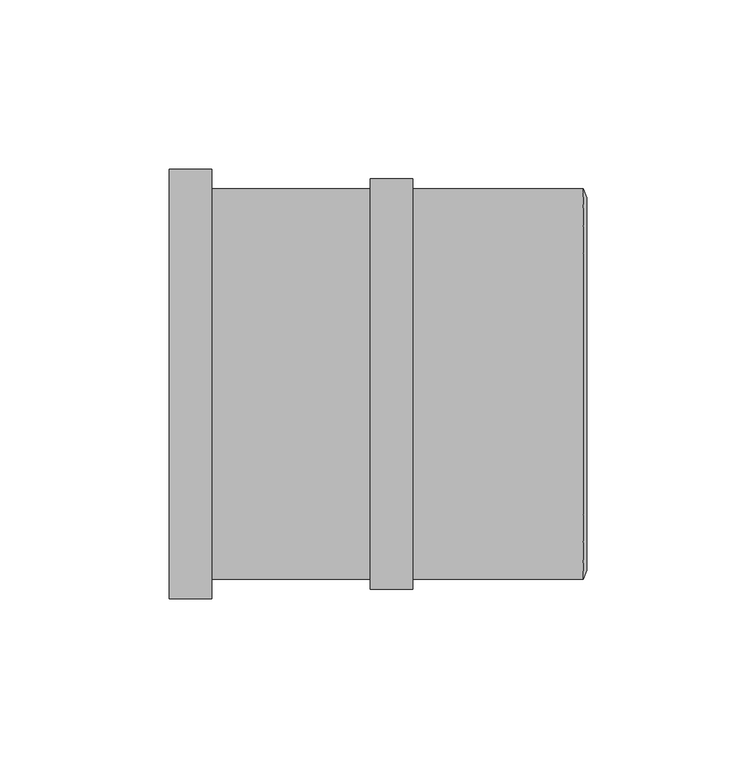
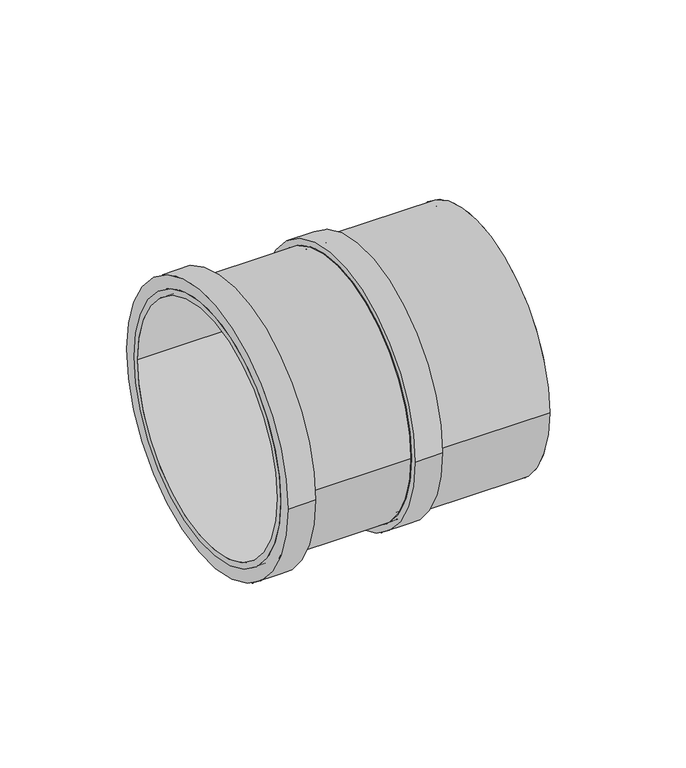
"""IFC4 building model written with IfcOpenShell, lengths in millimetres: pipe fitting geometry, Superdrain HTAM-Single socket : Superdrain HTAM-Single socket."""

from ifc_helpers import new_model, si_unit, point, frame, origin, origin_2d, place, context, project, spatial, polyline, circle_curve, trimmed, segment, composite_curve, outline, extrude, source, transform, mapped, element, save
from ifc_brep_helpers import plane_surface, revolved_surface, advanced_brep


def pipe_fitting_4dd23337(model_context):
    return source(origin(), model_context, "Body", "SolidModel", [
        extrude(outline(composite_curve([segment(trimmed(circle_curve(origin_2d(), 57.75), [point((-57.75, 0.0))], [point((57.75, 0.0))], False, "CARTESIAN"), True, "CONTINUOUS"), segment(trimmed(circle_curve(origin_2d(), 57.75), [point((57.75, 0.0))], [point((-57.75, 0.0))], False, "CARTESIAN"), True, "CONTINUOUS")], self_intersect=False), holes=[composite_curve([segment(trimmed(circle_curve(origin_2d(), 55.0), [point((-55.0, 0.0))], [point((55.0, 0.0))], True, "CARTESIAN"), True, "CONTINUOUS"), segment(trimmed(circle_curve(origin_2d(), 55.0), [point((55.0, 0.0))], [point((-55.0, 0.0))], True, "CARTESIAN"), True, "CONTINUOUS")], self_intersect=False)]), frame((-9.0, 0.0, 0.0), z_axis=(1.0, 0.0, 0.0), x_axis=(0.0, 1.0, 0.0)), (0.0, 0.0, 1.0), 63.0),
        extrude(outline(composite_curve([segment(trimmed(circle_curve(origin_2d(), 60.6375), [point((-60.6375, 0.0))], [point((60.6375, 0.0))], False, "CARTESIAN"), True, "CONTINUOUS"), segment(trimmed(circle_curve(origin_2d(), 60.6375), [point((60.6375, 0.0))], [point((-60.6375, 0.0))], False, "CARTESIAN"), True, "CONTINUOUS")], self_intersect=False), holes=[composite_curve([segment(trimmed(circle_curve(origin_2d(), 55.0), [point((-55.0, 0.0))], [point((55.0, 0.0))], True, "CARTESIAN"), True, "CONTINUOUS"), segment(trimmed(circle_curve(origin_2d(), 55.0), [point((55.0, 0.0))], [point((-55.0, 0.0))], True, "CARTESIAN"), True, "CONTINUOUS")], self_intersect=False)]), frame((-9.0, 0.0, 0.0), z_axis=(1.0, 0.0, 0.0), x_axis=(0.0, 1.0, 0.0)), (0.0, 0.0, 1.0), 12.6),
        advanced_brep(
        [(55.0, -55.0, 0.0), (55.0, 55.0, 0.0), (54.0, -57.75, 0.0), (54.0, 57.75, 0.0)],
        [
            (0, 1, circle_curve(frame((55.0, 0.0, 0.0), z_axis=(1.0, 0.0, 0.0), x_axis=(0.0, -1.0, 0.0)), 55.0)),
            (1, 0, circle_curve(frame((55.0, 0.0, 0.0), z_axis=(1.0, 0.0, 0.0), x_axis=(0.0, 1.0, 0.0)), 55.0)),
            (2, 3, circle_curve(frame((54.0, 0.0, 0.0), z_axis=(-1.0, 0.0, 0.0), x_axis=(0.0, 1.0, 0.0)), 57.75)),
            (3, 2, circle_curve(frame((54.0, 0.0, 0.0), z_axis=(-1.0, 0.0, 0.0), x_axis=(0.0, -1.0, 0.0)), 57.75)),
            (3, 1),
            (0, 2),
        ],
        [
            plane_surface(frame((55.0, 0.0, 0.0), z_axis=(1.0, 0.0, 0.0), x_axis=(0.0, 0.0, -1.0))),
            plane_surface(frame((54.0, 0.0, 0.0), z_axis=(-1.0, 0.0, 0.0), x_axis=(0.0, 0.0, -1.0))),
            revolved_surface(polyline([(55.0, -55.0, 0.0), (54.0, -57.75, 0.0)]), (75.0, 0.0, 0.0), (-1.0, 0.0, 0.0)),
            revolved_surface(polyline([(55.0, 55.0, 0.0), (54.0, 57.75, 0.0)]), (75.0, 0.0, 0.0), (-1.0, 0.0, 0.0)),
        ],
        [
            (0, [[1, 2]]),
            (1, [[3, 4]]),
            (2, [[-4, 5, -1, 6]]),
            (3, [[-3, -6, -2, -5]]),
        ],
    ),
        extrude(outline(composite_curve([segment(trimmed(circle_curve(origin_2d(), 57.75), [point((-57.75, 0.0))], [point((57.75, 0.0))], False, "CARTESIAN"), True, "CONTINUOUS"), segment(trimmed(circle_curve(origin_2d(), 57.75), [point((57.75, 0.0))], [point((-57.75, 0.0))], False, "CARTESIAN"), True, "CONTINUOUS")], self_intersect=False), holes=[composite_curve([segment(trimmed(circle_curve(origin_2d(), 55.0), [point((-55.0, 0.0))], [point((55.0, 0.0))], True, "CARTESIAN"), True, "CONTINUOUS"), segment(trimmed(circle_curve(origin_2d(), 55.0), [point((55.0, 0.0))], [point((-55.0, 0.0))], True, "CARTESIAN"), True, "CONTINUOUS")], self_intersect=False)]), frame((-68.5, 0.0, 0.0), z_axis=(1.0, 0.0, 0.0), x_axis=(0.0, 1.0, 0.0)), (0.0, 0.0, 1.0), 63.0),
        extrude(outline(composite_curve([segment(trimmed(circle_curve(origin_2d(), 63.525), [point((-63.525, 0.0))], [point((63.525, 0.0))], False, "CARTESIAN"), True, "CONTINUOUS"), segment(trimmed(circle_curve(origin_2d(), 63.525), [point((63.525, 0.0))], [point((-63.525, 0.0))], False, "CARTESIAN"), True, "CONTINUOUS")], self_intersect=False), holes=[composite_curve([segment(trimmed(circle_curve(origin_2d(), 55.0), [point((-55.0, 0.0))], [point((55.0, 0.0))], True, "CARTESIAN"), True, "CONTINUOUS"), segment(trimmed(circle_curve(origin_2d(), 55.0), [point((55.0, 0.0))], [point((-55.0, 0.0))], True, "CARTESIAN"), True, "CONTINUOUS")], self_intersect=False)]), frame((-68.5, 0.0, 0.0), z_axis=(1.0, 0.0, 0.0), x_axis=(0.0, 1.0, 0.0)), (0.0, 0.0, 1.0), 12.6),
        advanced_brep(
        [(-4.5, -55.0, 0.0), (-4.5, 55.0, 0.0), (-5.5, -57.75, 0.0), (-5.5, 57.75, 0.0)],
        [
            (0, 1, circle_curve(frame((-4.5, 0.0, 0.0), z_axis=(1.0, 0.0, 0.0), x_axis=(0.0, -1.0, 0.0)), 55.0)),
            (1, 0, circle_curve(frame((-4.5, 0.0, 0.0), z_axis=(1.0, 0.0, 0.0), x_axis=(0.0, 1.0, 0.0)), 55.0)),
            (2, 3, circle_curve(frame((-5.5, 0.0, 0.0), z_axis=(-1.0, 0.0, 0.0), x_axis=(0.0, 1.0, 0.0)), 57.75)),
            (3, 2, circle_curve(frame((-5.5, 0.0, 0.0), z_axis=(-1.0, 0.0, 0.0), x_axis=(0.0, -1.0, 0.0)), 57.75)),
            (3, 1),
            (0, 2),
        ],
        [
            plane_surface(frame((-4.5, 0.0, 0.0), z_axis=(1.0, 0.0, 0.0), x_axis=(0.0, 0.0, -1.0))),
            plane_surface(frame((-5.5, 0.0, 0.0), z_axis=(-1.0, 0.0, 0.0), x_axis=(0.0, 0.0, -1.0))),
            revolved_surface(polyline([(-4.5, -55.0, 0.0), (-5.5, -57.75, 0.0)]), (15.5, 0.0, 0.0), (-1.0, 0.0, 0.0)),
            revolved_surface(polyline([(-4.5, 55.0, 0.0), (-5.5, 57.75, 0.0)]), (15.5, 0.0, 0.0), (-1.0, 0.0, 0.0)),
        ],
        [
            (0, [[1, 2]]),
            (1, [[3, 4]]),
            (2, [[-4, 5, -1, 6]]),
            (3, [[-3, -6, -2, -5]]),
        ],
    ),
        extrude(outline(composite_curve([segment(trimmed(circle_curve(origin_2d(), 55.0), [point((-55.0, 0.0))], [point((55.0, 0.0))], False, "CARTESIAN"), True, "CONTINUOUS"), segment(trimmed(circle_curve(origin_2d(), 55.0), [point((55.0, 0.0))], [point((-55.0, 0.0))], False, "CARTESIAN"), True, "CONTINUOUS")], self_intersect=False)), frame((-5.5, 0.0, 0.0), z_axis=(1.0, 0.0, 0.0), x_axis=(0.0, 1.0, 0.0)), (0.0, 0.0, 1.0), 59.5),
    ])


if __name__ == "__main__":
    model = new_model("IFC4")
    model_context = context("Model", 3, world=origin())
    ifc_project = project(units=[si_unit("LENGTHUNIT", "METRE", prefix="MILLI")], contexts=[model_context])
    site = spatial("IfcSite", under=ifc_project)
    building = spatial("IfcBuilding", under=site)
    placement = place(None, origin())
    pipe_fitting_shape = pipe_fitting_4dd23337(model_context)
    element("IfcPipeFitting", 1, ObjectType="Superdrain HTAM-Single socket : Superdrain HTAM-Single socket", at=placement, inside=building, context=model_context, shape_type="MappedRepresentation", body=[
        mapped(pipe_fitting_shape, transform((0.0, 0.0, 0.0), x_axis=(1.0, 0.0, 0.0), y_axis=(0.0, 1.0, 0.0), z_axis=(0.0, 0.0, 1.0))),
    ])
    save(model, "model.ifc")
